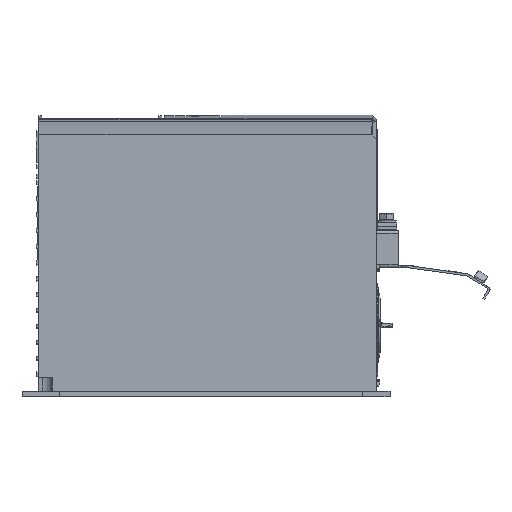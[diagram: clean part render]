
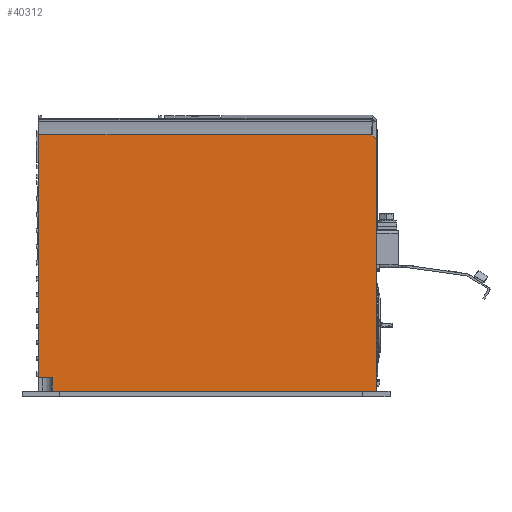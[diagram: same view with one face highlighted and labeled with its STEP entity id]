
A CAD part, left-side view. The second image highlights one B-rep face of the part: STEP entity #40312.
In plain terms, the highlighted planar face has unit normal (-1, 0, 0).
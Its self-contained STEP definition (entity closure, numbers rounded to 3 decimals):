
#947=DIRECTION('',(0.,-1.,0.));
#948=VECTOR('',#947,9.65);
#949=CARTESIAN_POINT('',(-130.54,-12.25,14.25));
#950=LINE('',#949,#948);
#955=CARTESIAN_POINT('',(-130.54,-21.9,13.9));
#956=DIRECTION('',(-1.,0.,0.));
#957=DIRECTION('',(0.,-1.,0.));
#958=AXIS2_PLACEMENT_3D('',#955,#956,#957);
#960=CARTESIAN_POINT('',(-130.54,-254.592,190.619));
#961=CARTESIAN_POINT('',(-130.54,-254.655,190.619));
#962=CARTESIAN_POINT('',(-130.54,-254.717,190.593));
#963=CARTESIAN_POINT('',(-130.54,-254.763,190.548));
#965=DIRECTION('',(0.,-0.712,-0.702));
#966=VECTOR('',#965,4.085);
#967=CARTESIAN_POINT('',(-130.54,-254.763,190.548));
#968=LINE('',#967,#966);
#969=CARTESIAN_POINT('',(-130.54,-257.671,187.679));
#970=CARTESIAN_POINT('',(-130.54,-257.721,187.63));
#971=CARTESIAN_POINT('',(-130.54,-257.75,187.56));
#972=CARTESIAN_POINT('',(-130.54,-257.75,187.489));
#974=DIRECTION('',(0.,0.,1.));
#975=VECTOR('',#974,183.489);
#976=CARTESIAN_POINT('',(-130.54,-257.75,4.));
#977=LINE('',#976,#975);
#996=DIRECTION('',(0.,-1.,0.));
#997=VECTOR('',#996,235.5);
#998=CARTESIAN_POINT('',(-130.54,-22.25,4.));
#999=LINE('',#998,#997);
#1742=DIRECTION('',(0.,1.,0.));
#1743=VECTOR('',#1742,242.342);
#1744=CARTESIAN_POINT('',(-130.54,-254.592,190.619));
#1745=LINE('',#1744,#1743);
#21418=DIRECTION('',(0.,0.,-1.));
#21419=VECTOR('',#21418,176.369);
#21420=CARTESIAN_POINT('',(-130.54,-12.25,190.619));
#21421=LINE('',#21420,#21419);
#23993=DIRECTION('',(0.,0.,
-1.));
#23994=VECTOR('',#23993,9.9);
#23995=CARTESIAN_POINT('',(-130.54,-22.25,
13.9));
#23996=LINE('',#23995,#23994);
#37913=CARTESIAN_POINT('',(-130.54,-257.75,4.));
#37914=VERTEX_POINT('',#37913);
#37915=CARTESIAN_POINT('',(-130.54,-257.75,187.489));
#37916=VERTEX_POINT('',#37915);
#37929=CARTESIAN_POINT('',(-130.54,-22.25,4.));
#37930=VERTEX_POINT('',#37929);
#38100=CARTESIAN_POINT('',(-130.54,-22.25,13.9));
#38101=VERTEX_POINT('',#38100);
#38102=CARTESIAN_POINT('',(-130.54,-21.9,
14.25));
#38103=VERTEX_POINT('',#38102);
#38106=CARTESIAN_POINT('',(-130.54,-12.25,14.25));
#38107=VERTEX_POINT('',#38106);
#38108=CARTESIAN_POINT('',(-130.54,-12.25,190.619));
#38109=VERTEX_POINT('',#38108);
#38110=CARTESIAN_POINT('',(-130.54,-254.592,190.619));
#38111=VERTEX_POINT('',#38110);
#38112=VERTEX_POINT('',#963);
#38113=CARTESIAN_POINT('',(-130.54,-257.671,
187.679));
#38114=VERTEX_POINT('',#38113);
#40286=CARTESIAN_POINT('',(-130.54,-258.,4.));
#40287=DIRECTION('',(-1.,0.,0.));
#40288=DIRECTION('',(0.,0.,1.));
#40289=AXIS2_PLACEMENT_3D('',#40286,#40287,#40288);
#40290=PLANE('',#40289);
#40292=ORIENTED_EDGE('',*,*,#40291,.F.);
#40294=ORIENTED_EDGE('',*,*,#40293,.F.);
#40296=ORIENTED_EDGE('',*,*,#40295,.F.);
#40298=ORIENTED_EDGE('',*,*,#40297,.T.);
#40299=ORIENTED_EDGE('',*,*,#40269,.F.);
#40301=ORIENTED_EDGE('',*,*,#40300,.F.);
#40303=ORIENTED_EDGE('',*,*,#40302,.F.);
#40305=ORIENTED_EDGE('',*,*,#40304,.T.);
#40307=ORIENTED_EDGE('',*,*,#40306,.T.);
#40309=ORIENTED_EDGE('',*,*,#40308,.T.);
#40310=EDGE_LOOP('',(#40292,#40294,#40296,#40298,#40299,#40301,#40303,#40305,
#40307,#40309));
#40311=FACE_OUTER_BOUND('',#40310,.F.);
#959=CIRCLE('',#958,0.35);
#964=B_SPLINE_CURVE_WITH_KNOTS('',3,(#960,#961,#962,#963),.UNSPECIFIED.,.F.,.F.,
(4,4),(0.,1.),.UNSPECIFIED.);
#973=B_SPLINE_CURVE_WITH_KNOTS('',3,(#969,#970,#971,#972),.UNSPECIFIED.,.F.,.F.,
(4,4),(0.,1.),.UNSPECIFIED.);
#40269=EDGE_CURVE('',#38107,#38103,#950,.T.);
#40291=EDGE_CURVE('',#37914,#37916,#977,.T.);
#40293=EDGE_CURVE('',#37930,#37914,#999,.T.);
#40295=EDGE_CURVE('',#38101,#37930,#23996,.T.);
#40297=EDGE_CURVE('',#38101,#38103,#959,.T.);
#40300=EDGE_CURVE('',#38109,#38107,#21421,.T.);
#40302=EDGE_CURVE('',#38111,#38109,#1745,.T.);
#40304=EDGE_CURVE('',#38111,#38112,#964,.T.);
#40306=EDGE_CURVE('',#38112,#38114,#968,.T.);
#40308=EDGE_CURVE('',#38114,#37916,#973,.T.);
#40312=ADVANCED_FACE('',(#40311),#40290,.T.);
